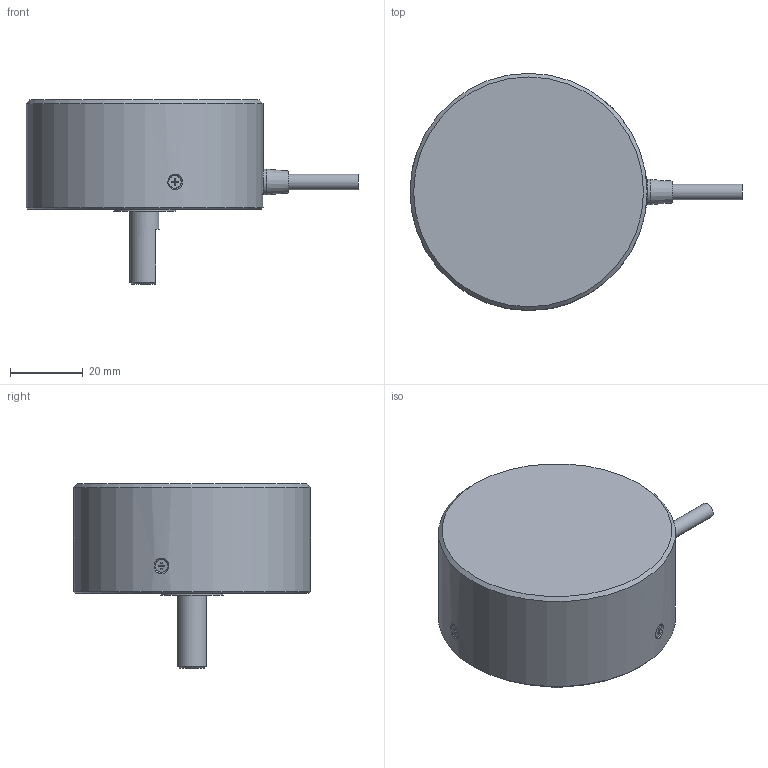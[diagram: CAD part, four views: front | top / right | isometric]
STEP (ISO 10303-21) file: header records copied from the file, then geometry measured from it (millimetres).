
FILE_DESCRIPTION(('STEP AP242'),'1');
FILE_NAME('.stp','2022-08-09T01:18:26',(' '),(' '),'Spatial InterOp 3D',' ',' ');
FILE_SCHEMA(('AP242_MANAGED_MODEL_BASED_3D_ENGINEERING_MIM_LF {1 0 10303 442 1 1 4}'));
Length unit declared in the file: millimetre
Products named in the file (6): L5G03A MES-50-＊＊＊P□; 018241 サラ0番3種 M2x4 鉄 三価黒; 029767 5芯ケーブル(4.2) L=70; ケーブル; ブッシュ
Assembly tree (7 placements, depth 3):
  L5G03A MES-50-＊＊＊P□
    L5G03A MES-50-＊＊＊P□
    018241 サラ0番3種 M2x4 鉄 三価黒  x3
    029767 5芯ケーブル(4.2) L=70
      ケーブル
      ブッシュ
Bounding box: 91 x 65 x 50.5 mm (x, y, z)
Volume: 100374.1 mm3; surface area: 15192.9 mm2
Topology: 6 solids, 7 shells, 144 faces, 332 edges, 212 vertices
Faces by surface type: plane 78, cylinder 42, cone 21, bspline 3
Full cylindrical faces by diameter (mm): 1.6 x10, 2 x6, 2.3 x3, 3.3 x6, 3.5 x3, 4.2 x2, 7 x1, 8 x1, 12 x1, 17 x1, 19 x1, 65 x1
Entity records: 4275 total; most frequent: CARTESIAN_POINT 1043, DIRECTION 433, ORIENTED_EDGE 330, AXIS2_PLACEMENT_3D 174, EDGE_LOOP 168, EDGE_CURVE 165, FACE_OUTER_BOUND 139, VERTEX_POINT 137
